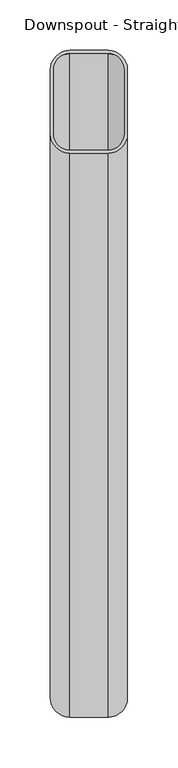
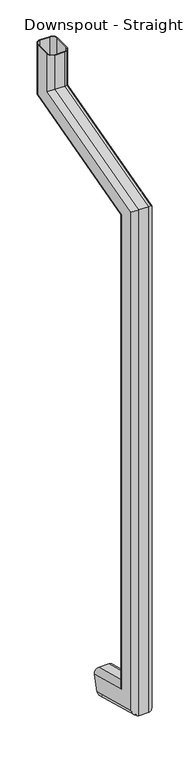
"""IFC4 building model written with IfcOpenShell, lengths in millimetres: proxy geometry."""

from ifc_helpers import new_model, si_unit, frame, origin, place, context, project, spatial, polyline, circle_curve, ellipse_curve, source, transform, mapped, element, save
from ifc_brep_helpers import plane_surface, cylinder_surface, revolved_surface, advanced_brep


def proxy_bde930bf(model_context):
    return source(origin(), model_context, "Body", "AdvancedBrep", [
        advanced_brep(
        [(38.1, 398.1824953, 121.731855), (19.05, 393.2519925, 103.330968), (-19.05, 393.2519925, 103.330968), (-38.1, 398.1824953, 121.731855), (-38.1, 414.6175047, 183.068145), (-19.05, 419.5480075, 201.469032), (19.05, 419.5480075, 201.469032), (38.1, 414.6175047, 183.068145), (34.925, 398.1824953, 121.731855), (34.925, 414.6175047, 183.068145), (19.05, 418.726257, 198.4022175), (-19.05, 418.726257, 198.4022175), (-34.925, 414.6175047, 183.068145), (-34.925, 398.1824953, 121.731855), (-19.05, 394.073743, 106.3977825), (19.05, 394.073743, 106.3977825), (19.05, 152.4, 167.8670649), (38.1, 171.45, 182.484644), (38.1, 171.45, 2202.9664149), (19.05, 152.4, 2217.583994), (-19.05, 152.4, 167.8670649), (-19.05, 152.4, 2217.583994), (-38.1, 171.45, 182.484644), (-38.1, 171.45, 2202.9664149), (-19.05, 254.0, 245.8274869), (-38.1, 234.95, 231.2099078), (-38.1, 234.95, 2154.2411512), (-19.05, 254.0, 2139.6235721), (19.05, 254.0, 245.8274869), (19.05, 254.0, 2139.6235721), (38.1, 234.95, 231.2099078), (38.1, 234.95, 2154.2411512), (19.05, 250.825, 243.3912237), (34.925, 234.95, 231.2099078), (34.925, 234.95, 2154.2411512), (19.05, 250.825, 2142.0598352), (-19.05, 250.825, 243.3912237), (-19.05, 250.825, 2142.0598352), (-34.925, 234.95, 231.2099078), (-34.925, 234.95, 2154.2411512), (-19.05, 155.575, 170.3033281), (-34.925, 171.45, 182.484644), (-34.925, 171.45, 2202.9664149), (-19.05, 155.575, 2215.1477308), (19.05, 155.575, 170.3033281), (19.05, 155.575, 2215.1477308), (34.925, 171.45, 182.484644), (34.925, 171.45, 2202.9664149), (38.1, 730.25, 2352.6964236), (19.05, 711.2, 2367.3140028), (-19.05, 711.2, 2367.3140028), (-38.1, 730.25, 2352.6964236), (-38.1, 793.75, 2303.9711599), (-19.05, 812.8, 2289.3535808), (19.05, 812.8, 2289.3535808), (38.1, 793.75, 2303.9711599), (34.925, 793.75, 2303.9711599), (19.05, 809.625, 2291.789844), (-19.05, 809.625, 2291.789844), (-34.925, 793.75, 2303.9711599), (-34.925, 730.25, 2352.6964236), (-19.05, 714.375, 2364.8777396), (19.05, 714.375, 2364.8777396), (34.925, 730.25, 2352.6964236), (38.1, 730.25, 2506.1337918), (38.1, 793.75, 2506.1337918), (19.05, 812.8, 2506.1337918), (-19.05, 812.8, 2506.1337918), (-38.1, 793.75, 2506.1337918), (-38.1, 730.25, 2506.1337918), (-19.05, 711.2, 2506.1337918), (19.05, 711.2, 2506.1337918), (34.925, 730.25, 2506.1337918), (19.05, 714.375, 2506.1337918), (-19.05, 714.375, 2506.1337918), (-34.925, 730.25, 2506.1337918), (-34.925, 793.75, 2506.1337918), (-19.05, 809.625, 2506.1337918), (19.05, 809.625, 2506.1337918), (34.925, 793.75, 2506.1337918)],
        [
            (0, 1, circle_curve(frame((19.05, 398.1824953, 121.731855), z_axis=(0.0, 0.9659258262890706, -0.25881904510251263), x_axis=(0.0, -0.25881904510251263, -0.9659258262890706)), 19.05)),
            (1, 2),
            (2, 3, circle_curve(frame((-19.05, 398.1824953, 121.731855), z_axis=(0.0, 0.9659258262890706, -0.25881904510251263), x_axis=(0.0, -0.25881904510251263, -0.9659258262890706)), 19.05)),
            (3, 4),
            (4, 5, circle_curve(frame((-19.05, 414.6175047, 183.068145), z_axis=(0.0, 0.9659258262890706, -0.25881904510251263), x_axis=(0.0, -0.25881904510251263, -0.9659258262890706)), 19.05)),
            (5, 6),
            (6, 7, circle_curve(frame((19.05, 414.6175047, 183.068145), z_axis=(0.0, 0.9659258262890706, -0.25881904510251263), x_axis=(0.0, -0.25881904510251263, -0.9659258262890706)), 19.05)),
            (7, 0),
            (8, 9),
            (9, 10, circle_curve(frame((19.05, 414.6175047, 183.068145), z_axis=(0.0, -0.9659258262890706, 0.25881904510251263), x_axis=(0.0, -0.25881904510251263, -0.9659258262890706)), 15.875)),
            (10, 11),
            (11, 12, circle_curve(frame((-19.05, 414.6175047, 183.068145), z_axis=(0.0, -0.9659258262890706, 0.25881904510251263), x_axis=(0.0, -0.25881904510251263, -0.9659258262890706)), 15.875)),
            (12, 13),
            (13, 14, circle_curve(frame((-19.05, 398.1824953, 121.731855), z_axis=(0.0, -0.9659258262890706, 0.25881904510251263), x_axis=(0.0, -0.25881904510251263, -0.9659258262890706)), 15.875)),
            (14, 15),
            (15, 8, circle_curve(frame((19.05, 398.1824953, 121.731855), z_axis=(0.0, -0.9659258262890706, 0.25881904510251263), x_axis=(0.0, -0.25881904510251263, -0.9659258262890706)), 15.875)),
            (16, 17, ellipse_curve(frame((19.05, 171.45, 182.484644), z_axis=(0.0, -0.608761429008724, 0.7933533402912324), x_axis=(0.0, -0.7933533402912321, -0.6087614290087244)), 24.0119995, 19.05)),
            (17, 18),
            (18, 19, ellipse_curve(frame((19.05, 171.45, 2202.9664149), z_axis=(0.0, -0.6087614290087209, -0.793353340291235), x_axis=(0.0, 0.7933533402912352, -0.6087614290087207)), 24.0119995, 19.05)),
            (19, 16),
            (20, 16),
            (19, 21),
            (21, 20),
            (22, 20, ellipse_curve(frame((-19.05, 171.45, 182.484644), z_axis=(0.0, -0.608761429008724, 0.7933533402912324), x_axis=(0.0, -0.7933533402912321, -0.6087614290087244)), 24.0119995, 19.05)),
            (21, 23, ellipse_curve(frame((-19.05, 171.45, 2202.9664149), z_axis=(0.0, -0.6087614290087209, -0.793353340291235), x_axis=(0.0, 0.7933533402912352, -0.6087614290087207)), 24.0119995, 19.05)),
            (23, 22),
            (24, 25, ellipse_curve(frame((-19.05, 234.95, 231.2099078), z_axis=(0.0, -0.608761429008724, 0.7933533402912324), x_axis=(0.0, -0.7933533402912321, -0.6087614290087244)), 24.0119995, 19.05)),
            (25, 26),
            (26, 27, ellipse_curve(frame((-19.05, 234.95, 2154.2411512), z_axis=(0.0, -0.6087614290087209, -0.793353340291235), x_axis=(0.0, 0.7933533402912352, -0.6087614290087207)), 24.0119995, 19.05)),
            (27, 24),
            (28, 24),
            (27, 29),
            (29, 28),
            (30, 28, ellipse_curve(frame((19.05, 234.95, 231.2099078), z_axis=(0.0, -0.608761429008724, 0.7933533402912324), x_axis=(0.0, -0.7933533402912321, -0.6087614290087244)), 24.0119995, 19.05)),
            (29, 31, ellipse_curve(frame((19.05, 234.95, 2154.2411512), z_axis=(0.0, -0.6087614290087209, -0.793353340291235), x_axis=(0.0, 0.7933533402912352, -0.6087614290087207)), 24.0119995, 19.05)),
            (31, 30),
            (32, 33, ellipse_curve(frame((19.05, 234.95, 231.2099078), z_axis=(0.0, 0.608761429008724, -0.7933533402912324), x_axis=(0.0, 0.7933533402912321, 0.6087614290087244)), 20.0099996, 15.875)),
            (33, 34),
            (34, 35, ellipse_curve(frame((19.05, 234.95, 2154.2411512), z_axis=(0.0, 0.6087614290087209, 0.793353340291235), x_axis=(0.0, -0.7933533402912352, 0.6087614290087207)), 20.0099996, 15.875)),
            (35, 32),
            (36, 32),
            (35, 37),
            (37, 36),
            (38, 36, ellipse_curve(frame((-19.05, 234.95, 231.2099078), z_axis=(0.0, 0.608761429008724, -0.7933533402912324), x_axis=(0.0, 0.7933533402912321, 0.6087614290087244)), 20.0099996, 15.875)),
            (37, 39, ellipse_curve(frame((-19.05, 234.95, 2154.2411512), z_axis=(0.0, 0.6087614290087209, 0.793353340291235), x_axis=(0.0, -0.7933533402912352, 0.6087614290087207)), 20.0099996, 15.875)),
            (39, 38),
            (40, 41, ellipse_curve(frame((-19.05, 171.45, 182.484644), z_axis=(0.0, 0.608761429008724, -0.7933533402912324), x_axis=(0.0, 0.7933533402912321, 0.6087614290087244)), 20.0099996, 15.875)),
            (41, 42),
            (42, 43, ellipse_curve(frame((-19.05, 171.45, 2202.9664149), z_axis=(0.0, 0.6087614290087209, 0.793353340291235), x_axis=(0.0, -0.7933533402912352, 0.6087614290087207)), 20.0099996, 15.875)),
            (43, 40),
            (44, 40),
            (43, 45),
            (45, 44),
            (46, 44, ellipse_curve(frame((19.05, 171.45, 182.484644), z_axis=(0.0, 0.608761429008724, -0.7933533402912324), x_axis=(0.0, 0.7933533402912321, 0.6087614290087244)), 20.0099996, 15.875)),
            (45, 47, ellipse_curve(frame((19.05, 171.45, 2202.9664149), z_axis=(0.0, 0.6087614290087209, 0.793353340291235), x_axis=(0.0, -0.7933533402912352, 0.6087614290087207)), 20.0099996, 15.875)),
            (47, 46),
            (18, 48),
            (48, 49, ellipse_curve(frame((19.05, 730.25, 2352.6964236), z_axis=(0.0, -0.6087614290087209, -0.793353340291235), x_axis=(0.0, -0.7933533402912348, 0.608761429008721)), 24.0119995, 19.05)),
            (49, 19),
            (49, 50),
            (50, 21),
            (50, 51, ellipse_curve(frame((-19.05, 730.25, 2352.6964236), z_axis=(0.0, -0.6087614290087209, -0.793353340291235), x_axis=(0.0, -0.7933533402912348, 0.608761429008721)), 24.0119995, 19.05)),
            (51, 23),
            (26, 52),
            (52, 53, ellipse_curve(frame((-19.05, 793.75, 2303.9711599), z_axis=(0.0, -0.6087614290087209, -0.793353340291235), x_axis=(0.0, -0.7933533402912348, 0.608761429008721)), 24.0119995, 19.05)),
            (53, 27),
            (53, 54),
            (54, 29),
            (54, 55, ellipse_curve(frame((19.05, 793.75, 2303.9711599), z_axis=(0.0, -0.6087614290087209, -0.793353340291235), x_axis=(0.0, -0.7933533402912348, 0.608761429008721)), 24.0119995, 19.05)),
            (55, 31),
            (34, 56),
            (56, 57, ellipse_curve(frame((19.05, 793.75, 2303.9711599), z_axis=(0.0, 0.6087614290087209, 0.793353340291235), x_axis=(0.0, 0.7933533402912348, -0.608761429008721)), 20.0099996, 15.875)),
            (57, 35),
            (57, 58),
            (58, 37),
            (58, 59, ellipse_curve(frame((-19.05, 793.75, 2303.9711599), z_axis=(0.0, 0.6087614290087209, 0.793353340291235), x_axis=(0.0, 0.7933533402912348, -0.608761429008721)), 20.0099996, 15.875)),
            (59, 39),
            (42, 60),
            (60, 61, ellipse_curve(frame((-19.05, 730.25, 2352.6964236), z_axis=(0.0, 0.6087614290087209, 0.793353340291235), x_axis=(0.0, 0.7933533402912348, -0.608761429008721)), 20.0099996, 15.875)),
            (61, 43),
            (61, 62),
            (62, 45),
            (62, 63, ellipse_curve(frame((19.05, 730.25, 2352.6964236), z_axis=(0.0, 0.6087614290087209, 0.793353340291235), x_axis=(0.0, 0.7933533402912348, -0.608761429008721)), 20.0099996, 15.875)),
            (63, 47),
            (64, 65),
            (65, 66, circle_curve(frame((19.05, 793.75, 2506.1337918), z_axis=(0.0, 0.0, 1.0), x_axis=(0.0, -1.0, 0.0)), 19.05)),
            (66, 67),
            (67, 68, circle_curve(frame((-19.05, 793.75, 2506.1337918), z_axis=(0.0, 0.0, 1.0), x_axis=(0.0, -1.0, 0.0)), 19.05)),
            (68, 69),
            (69, 70, circle_curve(frame((-19.05, 730.25, 2506.1337918), z_axis=(0.0, 0.0, 1.0), x_axis=(0.0, -1.0, 0.0)), 19.05)),
            (70, 71),
            (71, 64, circle_curve(frame((19.05, 730.25, 2506.1337918), z_axis=(0.0, 0.0, 1.0), x_axis=(0.0, -1.0, 0.0)), 19.05)),
            (72, 73, circle_curve(frame((19.05, 730.25, 2506.1337918), z_axis=(0.0, 0.0, -1.0), x_axis=(0.0, -1.0, 0.0)), 15.875)),
            (73, 74),
            (74, 75, circle_curve(frame((-19.05, 730.25, 2506.1337918), z_axis=(0.0, 0.0, -1.0), x_axis=(0.0, -1.0, 0.0)), 15.875)),
            (75, 76),
            (76, 77, circle_curve(frame((-19.05, 793.75, 2506.1337918), z_axis=(0.0, 0.0, -1.0), x_axis=(0.0, -1.0, 0.0)), 15.875)),
            (77, 78),
            (78, 79, circle_curve(frame((19.05, 793.75, 2506.1337918), z_axis=(0.0, 0.0, -1.0), x_axis=(0.0, -1.0, 0.0)), 15.875)),
            (79, 72),
            (48, 64),
            (71, 49),
            (70, 50),
            (69, 51),
            (52, 68),
            (67, 53),
            (66, 54),
            (65, 55),
            (56, 79),
            (78, 57),
            (77, 58),
            (76, 59),
            (60, 75),
            (74, 61),
            (73, 62),
            (72, 63),
            (0, 17),
            (16, 1),
            (20, 2),
            (22, 3),
            (25, 4),
            (24, 5),
            (28, 6),
            (30, 7),
            (8, 46),
            (33, 9),
            (32, 10),
            (36, 11),
            (38, 12),
            (41, 13),
            (40, 14),
            (44, 15),
        ],
        [
            plane_surface(frame((0.0, 406.4, 152.4), z_axis=(0.0, 0.9659258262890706, -0.25881904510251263), x_axis=(1.0, 0.0, 0.0))),
            cylinder_surface(frame((19.05, 171.45, 206.8472759), z_axis=(0.0, 0.0, -1.0), x_axis=(0.0, -1.0, 0.0)), 19.05),
            plane_surface(frame((19.05, 152.4, 167.8670649), z_axis=(0.0, -1.0, 0.0), x_axis=(0.0, 0.0, 1.0))),
            cylinder_surface(frame((-19.05, 171.45, 206.8472759), z_axis=(0.0, 0.0, -1.0), x_axis=(0.0, -1.0, 0.0)), 19.05),
            cylinder_surface(frame((-19.05, 234.95, 206.8472759), z_axis=(0.0, 0.0, -1.0), x_axis=(0.0, -1.0, 0.0)), 19.05),
            plane_surface(frame((-19.05, 254.0, 245.8274869), z_axis=(0.0, 1.0, 0.0), x_axis=(0.0, 0.0, 1.0))),
            cylinder_surface(frame((19.05, 234.95, 206.8472759), z_axis=(0.0, 0.0, -1.0), x_axis=(0.0, -1.0, 0.0)), 19.05),
            revolved_surface(polyline([(19.05, 219.075, 2166.4224671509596), (19.05, 219.075, 219.02859184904)]), (19.05, 234.95, 206.8472759), (0.0, 0.0, 1.0)),
            plane_surface(frame((19.05, 250.825, 243.3912237), z_axis=(0.0, -1.0, 0.0), x_axis=(0.0, 0.0, 1.0))),
            revolved_surface(polyline([(-19.05, 219.075, 2166.4224671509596), (-19.05, 219.075, 219.02859184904)]), (-19.05, 234.95, 206.8472759), (0.0, 0.0, 1.0)),
            revolved_surface(polyline([(-19.05, 155.575, 2215.1477308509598), (-19.05, 155.575, 170.30332804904)]), (-19.05, 171.45, 206.8472759), (0.0, 0.0, 1.0)),
            plane_surface(frame((-19.05, 155.575, 170.3033281), z_axis=(0.0, 1.0, 0.0), x_axis=(0.0, 0.0, 1.0))),
            revolved_surface(polyline([(19.05, 155.575, 2215.1477308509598), (19.05, 155.575, 170.30332804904)]), (19.05, 171.45, 206.8472759), (0.0, 0.0, 1.0)),
            cylinder_surface(frame((19.05, 194.9824953, 2209.271928), z_axis=(0.0, -0.9659258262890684, -0.2588190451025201), x_axis=(0.0, -0.2588190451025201, 0.9659258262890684)), 19.05),
            plane_surface(frame((19.05, 152.4, 2217.583994), z_axis=(0.0, -0.2588190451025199, 0.9659258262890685), x_axis=(0.0, 0.9659258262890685, 0.2588190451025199))),
            cylinder_surface(frame((-19.05, 194.9824953, 2209.271928), z_axis=(0.0, -0.9659258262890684, -0.2588190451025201), x_axis=(0.0, -0.2588190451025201, 0.9659258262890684)), 19.05),
            cylinder_surface(frame((-19.05, 211.4175047, 2147.9356381), z_axis=(0.0, -0.9659258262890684, -0.2588190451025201), x_axis=(0.0, -0.2588190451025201, 0.9659258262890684)), 19.05),
            plane_surface(frame((-19.05, 254.0, 2139.6235721), z_axis=(0.0, 0.25881904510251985, -0.9659258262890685), x_axis=(0.0, 0.9659258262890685, 0.25881904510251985))),
            cylinder_surface(frame((19.05, 211.4175047, 2147.9356381), z_axis=(0.0, -0.9659258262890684, -0.2588190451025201), x_axis=(0.0, -0.2588190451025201, 0.9659258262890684)), 19.05),
            revolved_surface(polyline([(19.05, 801.407495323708, 2322.457988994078), (19.05, 219.07499998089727, 2166.4224671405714)]), (19.05, 211.4175047, 2147.9356381), (0.0, 0.9659258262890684, 0.2588190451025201)),
            plane_surface(frame((19.05, 250.825, 2142.0598352), z_axis=(0.0, -0.25881904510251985, 0.9659258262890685), x_axis=(0.0, 0.9659258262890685, 0.25881904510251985))),
            revolved_surface(polyline([(-19.05, 801.407495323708, 2322.457988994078), (-19.05, 219.07499998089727, 2166.4224671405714)]), (-19.05, 211.4175047, 2147.9356381), (0.0, 0.9659258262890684, 0.2588190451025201)),
            revolved_surface(polyline([(-19.05, 737.9074953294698, 2371.183252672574), (-19.05, 155.5749999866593, 2215.1477308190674)]), (-19.05, 194.9824953, 2209.271928), (0.0, 0.9659258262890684, 0.2588190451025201)),
            plane_surface(frame((-19.05, 155.575, 2215.1477308), z_axis=(0.0, 0.25881904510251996, -0.9659258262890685), x_axis=(0.0, 0.9659258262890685, 0.25881904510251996))),
            revolved_surface(polyline([(19.05, 737.9074953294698, 2371.183252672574), (19.05, 155.5749999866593, 2215.1477308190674)]), (19.05, 194.9824953, 2209.271928), (0.0, 0.9659258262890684, 0.2588190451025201)),
            plane_surface(frame((0.0, 762.0, 2506.1337918), z_axis=(0.0, 0.0, 1.0), x_axis=(1.0, 0.0, 0.0))),
            cylinder_surface(frame((19.05, 730.25, 2328.3337918), z_axis=(0.0, 0.0, -1.0), x_axis=(0.0, -1.0, 0.0)), 19.05),
            plane_surface(frame((19.05, 711.2, 2367.3140028), z_axis=(0.0, -1.0, 0.0), x_axis=(0.0, 0.0, 1.0))),
            cylinder_surface(frame((-19.05, 730.25, 2328.3337918), z_axis=(0.0, 0.0, -1.0), x_axis=(0.0, -1.0, 0.0)), 19.05),
            cylinder_surface(frame((-19.05, 793.75, 2328.3337918), z_axis=(0.0, 0.0, -1.0), x_axis=(0.0, -1.0, 0.0)), 19.05),
            plane_surface(frame((-19.05, 812.8, 2289.3535808), z_axis=(0.0, 1.0, 0.0), x_axis=(0.0, 0.0, 1.0))),
            cylinder_surface(frame((19.05, 793.75, 2328.3337918), z_axis=(0.0, 0.0, -1.0), x_axis=(0.0, -1.0, 0.0)), 19.05),
            revolved_surface(polyline([(19.05, 777.875, 2506.1337918), (19.05, 777.875, 2291.7898439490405)]), (19.05, 793.75, 2328.3337918), (0.0, 0.0, 1.0)),
            plane_surface(frame((19.05, 809.625, 2291.789844), z_axis=(0.0, -1.0, 0.0), x_axis=(0.0, 0.0, 1.0))),
            revolved_surface(polyline([(-19.05, 777.875, 2506.1337918), (-19.05, 777.875, 2291.7898439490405)]), (-19.05, 793.75, 2328.3337918), (0.0, 0.0, 1.0)),
            revolved_surface(polyline([(-19.05, 714.375, 2506.1337918), (-19.05, 714.375, 2340.51510764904)]), (-19.05, 730.25, 2328.3337918), (0.0, 0.0, 1.0)),
            plane_surface(frame((-19.05, 714.375, 2364.8777396), z_axis=(0.0, 1.0, 0.0), x_axis=(0.0, 0.0, 1.0))),
            revolved_surface(polyline([(19.05, 714.375, 2506.1337918), (19.05, 714.375, 2340.51510764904)]), (19.05, 730.25, 2328.3337918), (0.0, 0.0, 1.0)),
            cylinder_surface(frame((19.05, 398.1824953, 121.731855), z_axis=(0.0, 0.9659258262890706, -0.25881904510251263), x_axis=(0.0, -0.25881904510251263, -0.9659258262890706)), 19.05),
            plane_surface(frame((19.05, 393.2519925, 103.330968), z_axis=(0.0, -0.2588190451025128, -0.9659258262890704), x_axis=(0.0, -0.9659258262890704, 0.2588190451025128))),
            cylinder_surface(frame((-19.05, 398.1824953, 121.731855), z_axis=(0.0, 0.9659258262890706, -0.25881904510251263), x_axis=(0.0, -0.25881904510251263, -0.9659258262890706)), 19.05),
            plane_surface(frame((-38.1, 398.1824953, 121.731855), z_axis=(-1.0000000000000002, 0.0, 0.0), x_axis=(0.0, -0.9659258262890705, 0.2588190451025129))),
            cylinder_surface(frame((-19.05, 414.6175047, 183.068145), z_axis=(0.0, 0.9659258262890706, -0.25881904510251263), x_axis=(0.0, -0.25881904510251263, -0.9659258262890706)), 19.05),
            plane_surface(frame((-19.05, 419.5480075, 201.469032), z_axis=(0.0, 0.2588190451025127, 0.9659258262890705), x_axis=(0.0, -0.9659258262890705, 0.2588190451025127))),
            cylinder_surface(frame((19.05, 414.6175047, 183.068145), z_axis=(0.0, 0.9659258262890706, -0.25881904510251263), x_axis=(0.0, -0.25881904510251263, -0.9659258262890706)), 19.05),
            plane_surface(frame((38.1, 414.6175047, 183.068145), z_axis=(1.0, 0.0, 0.0), x_axis=(0.0, -0.9659258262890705, 0.25881904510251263))),
            plane_surface(frame((34.925, 398.1824953, 121.731855), z_axis=(-1.0000000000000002, 0.0, 0.0), x_axis=(0.0, -0.9659258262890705, 0.2588190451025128))),
            revolved_surface(polyline([(19.05, 219.0749999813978, 219.02859186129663), (19.05, 410.5087523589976, 167.73407250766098)]), (19.05, 414.6175047, 183.068145), (0.0, -0.9659258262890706, 0.25881904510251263)),
            plane_surface(frame((19.05, 418.726257, 198.4022175), z_axis=(0.0, -0.25881904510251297, -0.9659258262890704), x_axis=(0.0, -0.9659258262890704, 0.25881904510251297))),
            revolved_surface(polyline([(-19.05, 219.0749999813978, 219.02859186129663), (-19.05, 410.5087523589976, 167.73407250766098)]), (-19.05, 414.6175047, 183.068145), (0.0, -0.9659258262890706, 0.25881904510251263)),
            plane_surface(frame((-34.925, 414.6175047, 183.068145), z_axis=(1.0, 0.0, 0.0), x_axis=(0.0, -0.9659258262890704, 0.25881904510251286))),
            revolved_surface(polyline([(-19.05, 155.5749999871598, 170.30332808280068), (-19.05, 394.0737429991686, 106.39778249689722)]), (-19.05, 398.1824953, 121.731855), (0.0, -0.9659258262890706, 0.25881904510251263)),
            plane_surface(frame((-19.05, 394.073743, 106.3977825), z_axis=(0.0, 0.2588190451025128, 0.9659258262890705), x_axis=(0.0, -0.9659258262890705, 0.2588190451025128))),
            revolved_surface(polyline([(19.05, 155.5749999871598, 170.30332808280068), (19.05, 394.0737429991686, 106.39778249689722)]), (19.05, 398.1824953, 121.731855), (0.0, -0.9659258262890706, 0.25881904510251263)),
        ],
        [
            (0, [[1, 2, 3, 4, 5, 6, 7, 8], [9, 10, 11, 12, 13, 14, 15, 16]]),
            (1, [[17, 18, 19, 20]]),
            (2, [[21, -20, 22, 23]]),
            (3, [[24, -23, 25, 26]]),
            (4, [[27, 28, 29, 30]]),
            (5, [[31, -30, 32, 33]]),
            (6, [[34, -33, 35, 36]]),
            (7, [[37, 38, 39, 40]]),
            (8, [[41, -40, 42, 43]]),
            (9, [[44, -43, 45, 46]]),
            (10, [[47, 48, 49, 50]]),
            (11, [[51, -50, 52, 53]]),
            (12, [[54, -53, 55, 56]]),
            (13, [[-19, 57, 58, 59]]),
            (14, [[-22, -59, 60, 61]]),
            (15, [[-25, -61, 62, 63]]),
            (16, [[-29, 64, 65, 66]]),
            (17, [[-32, -66, 67, 68]]),
            (18, [[-35, -68, 69, 70]]),
            (19, [[-39, 71, 72, 73]]),
            (20, [[-42, -73, 74, 75]]),
            (21, [[-45, -75, 76, 77]]),
            (22, [[-49, 78, 79, 80]]),
            (23, [[-52, -80, 81, 82]]),
            (24, [[-55, -82, 83, 84]]),
            (25, [[85, 86, 87, 88, 89, 90, 91, 92], [93, 94, 95, 96, 97, 98, 99, 100]]),
            (26, [[-58, 101, -92, 102]]),
            (27, [[-60, -102, -91, 103]]),
            (28, [[-62, -103, -90, 104]]),
            (29, [[-65, 105, -88, 106]]),
            (30, [[-67, -106, -87, 107]]),
            (31, [[-69, -107, -86, 108]]),
            (32, [[-72, 109, -99, 110]]),
            (33, [[-74, -110, -98, 111]]),
            (34, [[-76, -111, -97, 112]]),
            (35, [[-79, 113, -95, 114]]),
            (36, [[-81, -114, -94, 115]]),
            (37, [[-83, -115, -93, 116]]),
            (38, [[-1, 117, -17, 118]]),
            (39, [[-2, -118, -21, 119]]),
            (40, [[-3, -119, -24, 120]]),
            (41, [[-4, -120, -26, -63, -104, -89, -105, -64, -28, 121]]),
            (42, [[-5, -121, -27, 122]]),
            (43, [[-6, -122, -31, 123]]),
            (44, [[-7, -123, -34, 124]]),
            (45, [[-8, -124, -36, -70, -108, -85, -101, -57, -18, -117]]),
            (46, [[-9, 125, -56, -84, -116, -100, -109, -71, -38, 126]]),
            (47, [[-10, -126, -37, 127]]),
            (48, [[-11, -127, -41, 128]]),
            (49, [[-12, -128, -44, 129]]),
            (50, [[-13, -129, -46, -77, -112, -96, -113, -78, -48, 130]]),
            (51, [[-14, -130, -47, 131]]),
            (52, [[-15, -131, -51, 132]]),
            (53, [[-16, -132, -54, -125]]),
        ],
    ),
    ])


if __name__ == "__main__":
    model = new_model("IFC4")
    model_context = context("Model", 3, world=origin())
    ifc_project = project(units=[si_unit("LENGTHUNIT", "METRE", prefix="MILLI")], contexts=[model_context])
    site = spatial("IfcSite", under=ifc_project)
    building = spatial("IfcBuilding", under=site)
    placement = place(None, origin())
    proxy_shape = proxy_bde930bf(model_context)
    element("IfcBuildingElementProxy", 1, Name="Downspout - Straight Discharge : 4\" x 3\" B", ObjectType="Downspout - Straight Discharge : 4\" x 3\" B", at=placement, inside=building, context=model_context, shape_type="MappedRepresentation", body=[
        mapped(proxy_shape, transform((0.0, 0.0, 0.0), x_axis=(1.0, 0.0, 0.0), y_axis=(0.0, 1.0, 0.0), z_axis=(0.0, 0.0, 1.0))),
    ])
    save(model, "model.ifc")
